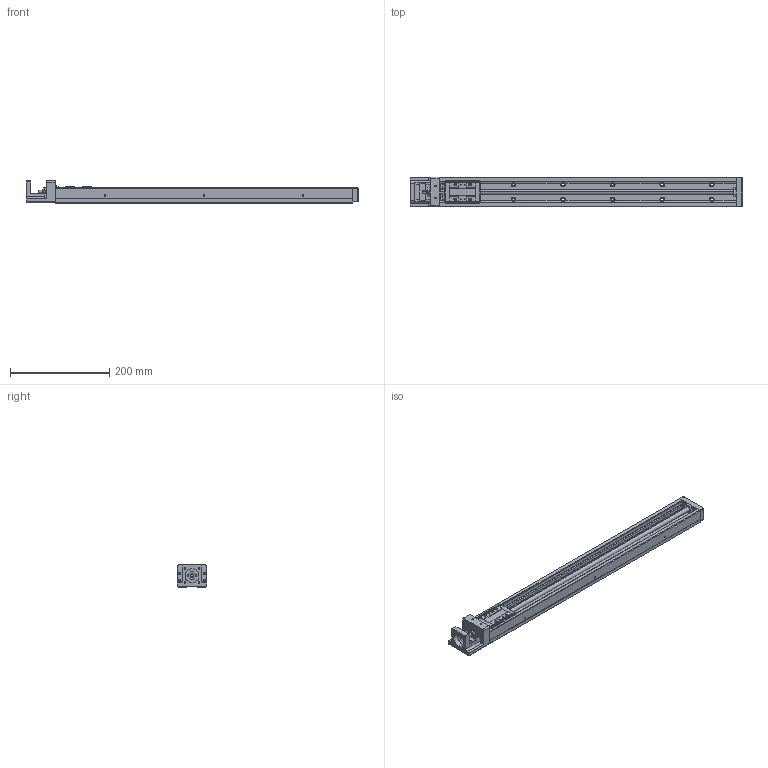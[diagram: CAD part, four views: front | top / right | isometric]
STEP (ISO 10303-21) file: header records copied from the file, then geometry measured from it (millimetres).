
FILE_DESCRIPTION(('starvars output'),'2;1');
FILE_NAME('thk20075.stp','11:00:26 2009/03/17',( 'Thomas Industrial Network Germany GmbH'),( 'Thomas Industrial Network Germany GmbH'),'unknown preprocess','ACIS' ,'unknown authorization');
FILE_SCHEMA(('AUTOMOTIVE_DESIGN_CC2 {UNKNOWN IMPLEMENTATION LEVEL}'));
Length unit declared in the file: millimetre
Products named in the file (2): PRODUCT_ID_1; PRODUCT_ID_2
Bounding box: 670 x 60 x 44.5 mm (x, y, z)
Volume: 703212.5 mm3; surface area: 196948.5 mm2
Topology: 2 solids, 3 shells, 898 faces, 2255 edges, 1389 vertices
Faces by surface type: plane 422, cylinder 266, cone 190, torus 20
Entity records: 30226 total; most frequent: CARTESIAN_POINT 4458, ORIENTED_EDGE 4390, DIRECTION 3146, EDGE_CURVE 2195, VERTEX_POINT 1389, VECTOR 1182, LINE 1182, EDGE_LOOP 1020
